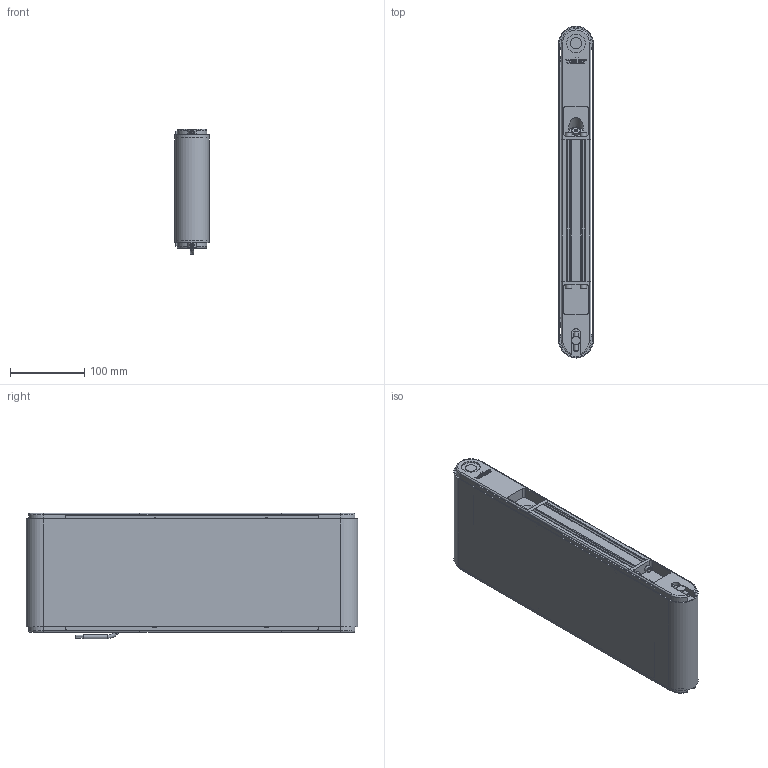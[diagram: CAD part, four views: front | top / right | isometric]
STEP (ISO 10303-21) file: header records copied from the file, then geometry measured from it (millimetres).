
FILE_DESCRIPTION(/* description */ (''),/* implementation_level */ '2;1');
FILE_NAME(/* name */ 'G:\DATEN\CAD\Förderband\Marketing\3D-Modelle (Standard)\FR-40-160\FR-40-160-400-K.stp',/* time_stamp */ '2019-05-08T09:03:27+02:00',/* author */ ('melanie.ochs'),/* organization */ (''),/* preprocessor_version */ 'ST-DEVELOPER v17',/* originating_system */ 'Autodesk Inventor 2019',/* authorisation */ '');
FILE_SCHEMA (('CONFIG_CONTROL_DESIGN'));
Length unit declared in the file: centimetre
Products named in the file (1): FR-40-160-400-K
Bounding box: 46.6 x 446.6 x 168.53 mm (x, y, z)
Volume: 1757939.8 mm3; surface area: 480236.5 mm2
Topology: 6 solids, 25 shells, 996 faces, 2706 edges, 1807 vertices
Faces by surface type: plane 511, cylinder 276, bspline 122, cone 62, torus 25
Full cylindrical faces by diameter (mm): 2 x2, 4 x6, 4.3 x4, 4.917 x1, 5 x11, 5.5 x8, 6 x4, 6.5 x1, 6.647 x3, 8 x4, 8.3 x4, 8.5 x8, 8.773 x1, 10 x1, 11 x1, 12 x5, 15 x2, 20 x4, 25 x2, 28 x4
Entity records: 33862 total; most frequent: CARTESIAN_POINT 8069, ORIENTED_EDGE 5382, DIRECTION 4856, EDGE_CURVE 2691, VERTEX_POINT 1807, AXIS2_PLACEMENT_3D 1682, LINE 1492, VECTOR 1492
